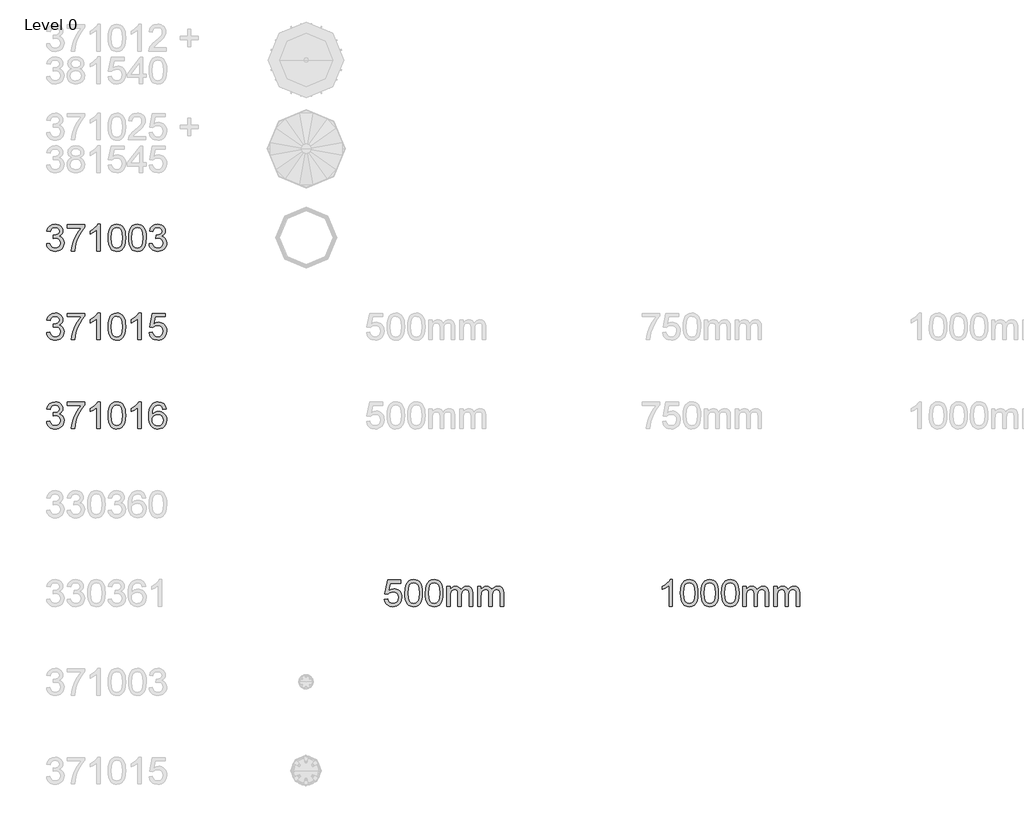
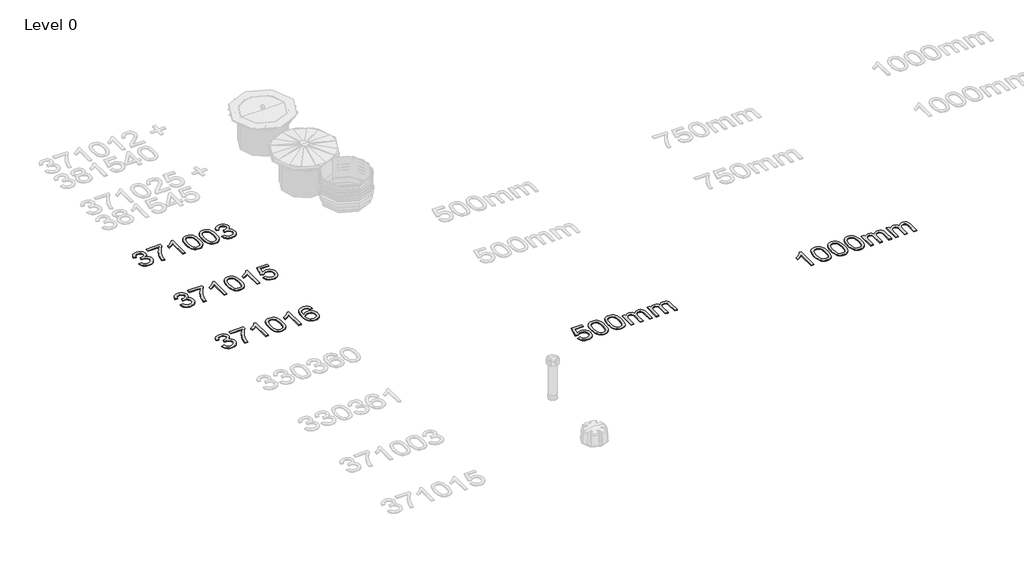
# One storey, part 13 of 25: 5 proxies.
"""IFC4 building model written with IfcOpenShell, lengths in millimetres."""

from ifc_helpers import new_model, si_unit, origin, origin_with_axes, place, context, project, spatial, polyline, outline, extrude, element, save

model = new_model("IFC4")

# Units and contexts
model_context = context("Model", 3, world=origin())
ifc_project = project(units=[si_unit("LENGTHUNIT", "METRE", prefix="MILLI")], contexts=[model_context])

# Site, building, storey
site = spatial("IfcSite", under=ifc_project)
building = spatial("IfcBuilding", under=site)
storey = spatial("IfcBuildingStorey", under=building, Name="Level 0", Elevation=0.0)

# Proxies
placement = place(None, origin())
element("IfcBuildingElementProxy", 1, Name="300mm Arial", ObjectType="300mm Arial", at=placement, inside=storey, context=model_context, shape_type="SweptSolid", body=[
    extrude(outline(polyline([(-3192.0538732, -1120.925676), (-3154.3827568, -1116.2167865), (-3145.9490621, -1139.8899929), (-3133.5974241, -1155.8744656), (-3116.7208376, -1164.979545), (-3094.7122972, -1168.0145714), (-3068.8869812, -1163.8391108), (-3048.947777, -1151.3127288), (-3036.2006659, -1132.6243235), (-3031.9516289, -1109.9627926), (-3036.1638777, -1088.4508929), (-3048.8006242, -1071.0040893), (-3067.930488, -1059.4433976), (-3091.6220885, -1055.5898337), (-3118.0360157, -1059.710112), (-3113.842161, -1022.0389957), (-3107.8088963, -1022.4804541), (-3085.2393359, -1019.7765215), (-3065.0610084, -1011.6647235), (-3050.8239752, -997.942725), (-3046.0782975, -978.4081911), (-3049.5179941, -962.1386099), (-3059.8370841, -948.9408433), (-3075.5824335, -940.1944488), (-3095.3009084, -937.278984), (-3115.0561716, -940.22204), (-3131.2061912, -949.0512079), (-3142.9968091, -963.7664877), (-3149.6738673, -984.3678794), (-3187.3449836, -979.6589899), (-3176.2533415, -945.8322404), (-3156.5164724, -920.5771415), (-3129.513934, -904.8501862), (-3096.6252836, -899.6078677), (-3072.9428802, -902.1922387), (-3051.1918572, -909.9453518), (-3032.8529397, -922.1774281), (-3019.4068528, -938.198689), (-3011.1570991, -956.6571681), (-3008.4071812, -976.2008991), (-3011.0191433, -994.4110579), (-3018.8550298, -1010.9289595), (-3031.8044761, -1025.0004458), (-3049.7571174, -1035.8713587), (-3026.1758815, -1045.3995024), (-3008.7014868, -1061.6230984), (-2997.8857561, -1083.6592299), (-2994.2805125, -1110.6249802), (-2996.0831343, -1129.7364498), (-3001.4909997, -1147.3396033), (-3010.5041085, -1163.4344406), (-3023.122461, -1178.0209617), (-3038.4953298, -1190.1242793), (-3055.771988, -1198.7695062), (-3074.9524356, -1203.9566423), (-3096.0366724, -1205.6856877), (-3115.0929598, -1204.2095612), (-3132.4569899, -1199.7811817), (-3148.1287629, -1192.4005492), (-3162.1082787, -1182.0676636), (-3173.8299188, -1169.3895304), (-3182.7280646, -1154.9731547), (-3188.802716, -1138.8185366), (-3192.0538732, -1120.925676)])), origin_with_axes(), (0.0, 0.0, 1.0), 10.0),
    extrude(outline(polyline([(-2961.3182858, -941.9878736), (-2961.3182858, -904.3167573), (-2763.5449252, -904.3167573), (-2763.5449252, -934.7773865), (-2791.7338831, -970.452743), (-2819.6469294, -1015.82179), (-2844.267432, -1066.7458552), (-2862.5787583, -1119.0862661), (-2871.555079, -1158.2473044), (-2876.5582741, -1200.9767982), (-2914.2293904, -1200.9767982), (-2910.1550973, -1162.1468536), (-2899.2565932, -1115.9960573), (-2881.8281837, -1067.076949), (-2858.1641743, -1019.9420684), (-2830.5362365, -977.3321363), (-2801.2160415, -941.9878736), (-2961.3182858, -941.9878736)])), origin_with_axes(), (0.0, 0.0, 1.0), 10.0),
    extrude(outline(polyline([(-2589.3160123, -1200.9767982), (-2626.9871286, -1200.9767982), (-2626.9871286, -966.1209325), (-2662.6716821, -991.5415783), (-2702.3293612, -1010.5610775), (-2702.3293612, -974.9501003), (-2672.7424517, -958.8552631), (-2647.1102737, -939.7070052), (-2626.9043551, -919.3447368), (-2613.5962239, -899.6078677), (-2589.3160123, -899.6078677), (-2589.3160123, -1200.9767982)])), origin_with_axes(), (0.0, 0.0, 1.0), 10.0),
    extrude(outline(polyline([(-2499.847111, -1052.7203541), (-2497.078799, -1004.4818275), (-2488.773863, -966.0105679), (-2475.0150764, -936.717964), (-2455.8852126, -916.0154047), (-2431.246316, -903.709752), (-2400.9604307, -899.6078677), (-2377.7470768, -902.0358889), (-2356.9617441, -909.3199524), (-2339.5793198, -921.1749497), (-2326.5746913, -937.3157722), (-2316.752242, -957.6044643), (-2308.9163555, -981.9030701), (-2303.7844017, -1012.7591724), (-2302.0737504, -1052.7203541), (-2304.8144713, -1100.6829692), (-2313.0366339, -1139.0622584), (-2326.7126471, -1168.3824534), (-2345.8149197, -1189.1677861), (-2370.5089986, -1201.5562123), (-2400.9604307, -1205.6856877), (-2421.7089753, -1203.892263), (-2440.103075, -1198.5119888), (-2456.14273, -1189.5448652), (-2469.8279402, -1176.9908921), (-2482.9613275, -1154.2971715), (-2492.3423183, -1126.0208417), (-2497.9709129, -1092.1619025), (-2499.847111, -1052.7203541)]), holes=[polyline([(-2462.1759947, -1052.6467777), (-2457.7614108, -1111.9033701), (-2452.2431809, -1132.1713688), (-2444.517659, -1146.1991691), (-2424.799184, -1162.5607208), (-2400.9604307, -1168.0145714), (-2377.1216774, -1162.5423267), (-2357.4032025, -1146.1255927), (-2349.6776806, -1132.0747997), (-2344.1594507, -1111.8113996), (-2339.7448667, -1052.6467777), (-2344.0122979, -994.7237576), (-2349.3465868, -974.5224375), (-2356.8145913, -960.1612441), (-2376.496278, -942.9995491), (-2401.4018891, -937.278984), (-2424.983125, -942.3189674), (-2443.9290478, -957.4389174), (-2451.9120871, -973.0739022), (-2457.614258, -994.1535405), (-2462.1759947, -1052.6467777)])]), origin_with_axes(), (0.0, 0.0, 1.0), 10.0),
    extrude(outline(polyline([(-2269.1115237, -1052.7203541), (-2266.3432116, -1004.4818275), (-2258.0382756, -966.0105679), (-2244.279489, -936.717964), (-2225.1496252, -916.0154047), (-2200.5107286, -903.709752), (-2170.2248434, -899.6078677), (-2147.0114895, -902.0358889), (-2126.2261567, -909.3199524), (-2108.8437325, -921.1749497), (-2095.8391039, -937.3157722), (-2086.0166547, -957.6044643), (-2078.1807682, -981.9030701), (-2073.0488143, -1012.7591724), (-2071.338163, -1052.7203541), (-2074.0788839, -1100.6829692), (-2082.3010465, -1139.0622584), (-2095.9770597, -1168.3824534), (-2115.0793323, -1189.1677861), (-2139.7734112, -1201.5562123), (-2170.2248434, -1205.6856877), (-2190.9733879, -1203.892263), (-2209.3674876, -1198.5119888), (-2225.4071426, -1189.5448652), (-2239.0923528, -1176.9908921), (-2252.2257401, -1154.2971715), (-2261.606731, -1126.0208417), (-2267.2353255, -1092.1619025), (-2269.1115237, -1052.7203541)]), holes=[polyline([(-2231.4404073, -1052.6467777), (-2227.0258234, -1111.9033701), (-2221.5075935, -1132.1713688), (-2213.7820716, -1146.1991691), (-2194.0635966, -1162.5607208), (-2170.2248434, -1168.0145714), (-2146.3860901, -1162.5423267), (-2126.6676151, -1146.1255927), (-2118.9420932, -1132.0747997), (-2113.4238633, -1111.8113996), (-2109.0092794, -1052.6467777), (-2113.2767105, -994.7237576), (-2118.6109994, -974.5224375), (-2126.0790039, -960.1612441), (-2145.7606907, -942.9995491), (-2170.6663017, -937.278984), (-2194.2475376, -942.3189674), (-2213.1934604, -957.4389174), (-2221.1764997, -973.0739022), (-2226.8786706, -994.1535405), (-2231.4404073, -1052.6467777)])]), origin_with_axes(), (0.0, 0.0, 1.0), 10.0),
    extrude(outline(polyline([(-2038.3759363, -1120.925676), (-2000.70482, -1116.2167865), (-1992.2711252, -1139.8899929), (-1979.9194872, -1155.8744656), (-1963.0429007, -1164.979545), (-1941.0343604, -1168.0145714), (-1915.2090443, -1163.8391108), (-1895.2698402, -1151.3127288), (-1882.522729, -1132.6243235), (-1878.273692, -1109.9627926), (-1882.4859408, -1088.4508929), (-1895.1226874, -1071.0040893), (-1914.2525511, -1059.4433976), (-1937.9441516, -1055.5898337), (-1964.3580789, -1059.710112), (-1960.1642241, -1022.0389957), (-1954.1309594, -1022.4804541), (-1931.561399, -1019.7765215), (-1911.3830715, -1011.6647235), (-1897.1460383, -997.942725), (-1892.4003606, -978.4081911), (-1895.8400572, -962.1386099), (-1906.1591472, -948.9408433), (-1921.9044966, -940.1944488), (-1941.6229715, -937.278984), (-1961.3782347, -940.22204), (-1977.5282543, -949.0512079), (-1989.3188722, -963.7664877), (-1995.9959304, -984.3678794), (-2033.6670467, -979.6589899), (-2022.5754046, -945.8322404), (-2002.8385355, -920.5771415), (-1975.8359971, -904.8501862), (-1942.9473467, -899.6078677), (-1919.2649433, -902.1922387), (-1897.5139203, -909.9453518), (-1879.1750029, -922.1774281), (-1865.7289159, -938.198689), (-1857.4791622, -956.6571681), (-1854.7292443, -976.2008991), (-1857.3412065, -994.4110579), (-1865.177093, -1010.9289595), (-1878.1265392, -1025.0004458), (-1896.0791805, -1035.8713587), (-1872.4979447, -1045.3995024), (-1855.0235499, -1061.6230984), (-1844.2078192, -1083.6592299), (-1840.6025757, -1110.6249802), (-1842.4051975, -1129.7364498), (-1847.8130628, -1147.3396033), (-1856.8261717, -1163.4344406), (-1869.4445241, -1178.0209617), (-1884.817393, -1190.1242793), (-1902.0940512, -1198.7695062), (-1921.2744987, -1203.9566423), (-1942.3587355, -1205.6856877), (-1961.4150229, -1204.2095612), (-1978.7790531, -1199.7811817), (-1994.4508261, -1192.4005492), (-2008.4303419, -1182.0676636), (-2020.1519819, -1169.3895304), (-2029.0501277, -1154.9731547), (-2035.1247791, -1138.8185366), (-2038.3759363, -1120.925676)])), origin_with_axes(), (0.0, 0.0, 1.0), 10.0),
])
element("IfcBuildingElementProxy", 2, Name="300mm Arial", ObjectType="300mm Arial", at=placement, inside=storey, context=model_context, shape_type="SweptSolid", body=[
    extrude(outline(polyline([(-3192.0538732, -2120.925676), (-3154.3827568, -2116.2167865), (-3145.9490621, -2139.8899929), (-3133.5974241, -2155.8744656), (-3116.7208376, -2164.979545), (-3094.7122972, -2168.0145714), (-3068.8869812, -2163.8391108), (-3048.947777, -2151.3127288), (-3036.2006659, -2132.6243235), (-3031.9516289, -2109.9627926), (-3036.1638777, -2088.4508929), (-3048.8006242, -2071.0040893), (-3067.930488, -2059.4433976), (-3091.6220885, -2055.5898337), (-3118.0360157, -2059.710112), (-3113.842161, -2022.0389957), (-3107.8088963, -2022.4804541), (-3085.2393359, -2019.7765215), (-3065.0610084, -2011.6647235), (-3050.8239752, -1997.942725), (-3046.0782975, -1978.4081911), (-3049.5179941, -1962.1386099), (-3059.8370841, -1948.9408433), (-3075.5824335, -1940.1944488), (-3095.3009084, -1937.278984), (-3115.0561716, -1940.22204), (-3131.2061912, -1949.0512079), (-3142.9968091, -1963.7664877), (-3149.6738673, -1984.3678794), (-3187.3449836, -1979.6589899), (-3176.2533415, -1945.8322404), (-3156.5164724, -1920.5771415), (-3129.513934, -1904.8501862), (-3096.6252836, -1899.6078677), (-3072.9428802, -1902.1922387), (-3051.1918572, -1909.9453518), (-3032.8529397, -1922.1774281), (-3019.4068528, -1938.198689), (-3011.1570991, -1956.6571681), (-3008.4071812, -1976.2008991), (-3011.0191433, -1994.4110579), (-3018.8550298, -2010.9289595), (-3031.8044761, -2025.0004458), (-3049.7571174, -2035.8713587), (-3026.1758815, -2045.3995024), (-3008.7014868, -2061.6230984), (-2997.8857561, -2083.6592299), (-2994.2805125, -2110.6249802), (-2996.0831343, -2129.7364498), (-3001.4909997, -2147.3396033), (-3010.5041085, -2163.4344406), (-3023.122461, -2178.0209617), (-3038.4953298, -2190.1242793), (-3055.771988, -2198.7695062), (-3074.9524356, -2203.9566423), (-3096.0366724, -2205.6856877), (-3115.0929598, -2204.2095612), (-3132.4569899, -2199.7811817), (-3148.1287629, -2192.4005492), (-3162.1082787, -2182.0676636), (-3173.8299188, -2169.3895304), (-3182.7280646, -2154.9731547), (-3188.802716, -2138.8185366), (-3192.0538732, -2120.925676)])), origin_with_axes(), (0.0, 0.0, 1.0), 10.0),
    extrude(outline(polyline([(-2961.3182858, -1941.9878736), (-2961.3182858, -1904.3167573), (-2763.5449252, -1904.3167573), (-2763.5449252, -1934.7773865), (-2791.7338831, -1970.452743), (-2819.6469294, -2015.82179), (-2844.267432, -2066.7458552), (-2862.5787583, -2119.0862661), (-2871.555079, -2158.2473044), (-2876.5582741, -2200.9767982), (-2914.2293904, -2200.9767982), (-2910.1550973, -2162.1468536), (-2899.2565932, -2115.9960573), (-2881.8281837, -2067.076949), (-2858.1641743, -2019.9420684), (-2830.5362365, -1977.3321363), (-2801.2160415, -1941.9878736), (-2961.3182858, -1941.9878736)])), origin_with_axes(), (0.0, 0.0, 1.0), 10.0),
    extrude(outline(polyline([(-2589.3160123, -2200.9767982), (-2626.9871286, -2200.9767982), (-2626.9871286, -1966.1209325), (-2662.6716821, -1991.5415783), (-2702.3293612, -2010.5610775), (-2702.3293612, -1974.9501003), (-2672.7424517, -1958.8552631), (-2647.1102737, -1939.7070052), (-2626.9043551, -1919.3447368), (-2613.5962239, -1899.6078677), (-2589.3160123, -1899.6078677), (-2589.3160123, -2200.9767982)])), origin_with_axes(), (0.0, 0.0, 1.0), 10.0),
    extrude(outline(polyline([(-2499.847111, -2052.7203541), (-2497.078799, -2004.4818275), (-2488.773863, -1966.0105679), (-2475.0150764, -1936.717964), (-2455.8852126, -1916.0154047), (-2431.246316, -1903.709752), (-2400.9604307, -1899.6078677), (-2377.7470768, -1902.0358889), (-2356.9617441, -1909.3199524), (-2339.5793198, -1921.1749497), (-2326.5746913, -1937.3157722), (-2316.752242, -1957.6044643), (-2308.9163555, -1981.9030701), (-2303.7844017, -2012.7591724), (-2302.0737504, -2052.7203541), (-2304.8144713, -2100.6829692), (-2313.0366339, -2139.0622584), (-2326.7126471, -2168.3824534), (-2345.8149197, -2189.1677861), (-2370.5089986, -2201.5562123), (-2400.9604307, -2205.6856877), (-2421.7089753, -2203.892263), (-2440.103075, -2198.5119888), (-2456.14273, -2189.5448652), (-2469.8279402, -2176.9908921), (-2482.9613275, -2154.2971715), (-2492.3423183, -2126.0208417), (-2497.9709129, -2092.1619025), (-2499.847111, -2052.7203541)]), holes=[polyline([(-2462.1759947, -2052.6467777), (-2457.7614108, -2111.9033701), (-2452.2431809, -2132.1713688), (-2444.517659, -2146.1991691), (-2424.799184, -2162.5607208), (-2400.9604307, -2168.0145714), (-2377.1216774, -2162.5423267), (-2357.4032025, -2146.1255927), (-2349.6776806, -2132.0747997), (-2344.1594507, -2111.8113996), (-2339.7448667, -2052.6467777), (-2344.0122979, -1994.7237576), (-2349.3465868, -1974.5224375), (-2356.8145913, -1960.1612441), (-2376.496278, -1942.9995491), (-2401.4018891, -1937.278984), (-2424.983125, -1942.3189674), (-2443.9290478, -1957.4389174), (-2451.9120871, -1973.0739022), (-2457.614258, -1994.1535405), (-2462.1759947, -2052.6467777)])]), origin_with_axes(), (0.0, 0.0, 1.0), 10.0),
    extrude(outline(polyline([(-2127.8448375, -2200.9767982), (-2165.5159538, -2200.9767982), (-2165.5159538, -1966.1209325), (-2201.2005073, -1991.5415783), (-2240.8581864, -2010.5610775), (-2240.8581864, -1974.9501003), (-2211.271277, -1958.8552631), (-2185.639099, -1939.7070052), (-2165.4331804, -1919.3447368), (-2152.1250492, -1899.6078677), (-2127.8448375, -1899.6078677), (-2127.8448375, -2200.9767982)])), origin_with_axes(), (0.0, 0.0, 1.0), 10.0),
    extrude(outline(polyline([(-2038.3759363, -2120.925676), (-2000.70482, -2116.2167865), (-1993.7886385, -2138.8323321), (-1981.722109, -2155.028337), (-1964.5604139, -2164.7680128), (-1942.3587355, -2168.0145714), (-1915.3561971, -2163.4988199), (-1895.1226874, -2149.9515654), (-1882.4859408, -2128.9363065), (-1878.273692, -2102.0165415), (-1882.2192264, -2076.669472), (-1894.0558296, -2057.2820909), (-1913.8754721, -2044.9764381), (-1941.7701243, -2040.8745539), (-1960.0446625, -2042.5116288), (-1974.8427157, -2047.4228534), (-1995.9959304, -2064.4190016), (-2033.6670467, -2059.710112), (-2000.70482, -1904.3167573), (-1854.7292443, -1904.3167573), (-1854.7292443, -1941.9878736), (-1970.2441908, -1941.9878736), (-1986.3574222, -2024.9820517), (-1959.4468542, -2008.6480911), (-1931.2486993, -2003.2034376), (-1912.902884, -2004.8910962), (-1896.0515894, -2009.9540722), (-1880.6948154, -2018.3923654), (-1866.8325619, -2030.205976), (-1855.3569429, -2044.6729355), (-1847.1600722, -2061.0712754), (-1842.2419498, -2079.4009958), (-1840.6025757, -2099.6620967), (-1846.5070817, -2137.333213), (-1853.8877142, -2154.1270261), (-1864.2205998, -2169.5596758), (-1879.8739787, -2185.364806), (-1898.1393197, -2196.6541847), (-1919.0166229, -2203.427812), (-1942.5058883, -2205.6856877), (-1979.50562, -2199.8823492), (-1995.1842908, -2192.6281762), (-2008.9821649, -2182.4723338), (-2020.4623824, -2169.92066), (-2029.1880835, -2155.4789924), (-2038.3759363, -2120.925676)])), origin_with_axes(), (0.0, 0.0, 1.0), 10.0),
])
element("IfcBuildingElementProxy", 3, Name="300mm Arial", ObjectType="300mm Arial", at=placement, inside=storey, context=model_context, shape_type="SweptSolid", body=[
    extrude(outline(polyline([(-3192.0538732, -3120.925676), (-3154.3827568, -3116.2167865), (-3145.9490621, -3139.8899929), (-3133.5974241, -3155.8744656), (-3116.7208376, -3164.979545), (-3094.7122972, -3168.0145714), (-3068.8869812, -3163.8391108), (-3048.947777, -3151.3127288), (-3036.2006659, -3132.6243235), (-3031.9516289, -3109.9627926), (-3036.1638777, -3088.4508929), (-3048.8006242, -3071.0040893), (-3067.930488, -3059.4433976), (-3091.6220885, -3055.5898337), (-3118.0360157, -3059.710112), (-3113.842161, -3022.0389957), (-3107.8088963, -3022.4804541), (-3085.2393359, -3019.7765215), (-3065.0610084, -3011.6647235), (-3050.8239752, -2997.942725), (-3046.0782975, -2978.4081911), (-3049.5179941, -2962.1386099), (-3059.8370841, -2948.9408433), (-3075.5824335, -2940.1944488), (-3095.3009084, -2937.278984), (-3115.0561716, -2940.22204), (-3131.2061912, -2949.0512079), (-3142.9968091, -2963.7664877), (-3149.6738673, -2984.3678794), (-3187.3449836, -2979.6589899), (-3176.2533415, -2945.8322404), (-3156.5164724, -2920.5771415), (-3129.513934, -2904.8501862), (-3096.6252836, -2899.6078677), (-3072.9428802, -2902.1922387), (-3051.1918572, -2909.9453518), (-3032.8529397, -2922.1774281), (-3019.4068528, -2938.198689), (-3011.1570991, -2956.6571681), (-3008.4071812, -2976.2008991), (-3011.0191433, -2994.4110579), (-3018.8550298, -3010.9289595), (-3031.8044761, -3025.0004458), (-3049.7571174, -3035.8713587), (-3026.1758815, -3045.3995024), (-3008.7014868, -3061.6230984), (-2997.8857561, -3083.6592299), (-2994.2805125, -3110.6249802), (-2996.0831343, -3129.7364498), (-3001.4909997, -3147.3396033), (-3010.5041085, -3163.4344406), (-3023.122461, -3178.0209617), (-3038.4953298, -3190.1242793), (-3055.771988, -3198.7695062), (-3074.9524356, -3203.9566423), (-3096.0366724, -3205.6856877), (-3115.0929598, -3204.2095612), (-3132.4569899, -3199.7811817), (-3148.1287629, -3192.4005492), (-3162.1082787, -3182.0676636), (-3173.8299188, -3169.3895304), (-3182.7280646, -3154.9731547), (-3188.802716, -3138.8185366), (-3192.0538732, -3120.925676)])), origin_with_axes(), (0.0, 0.0, 1.0), 10.0),
    extrude(outline(polyline([(-2961.3182858, -2941.9878736), (-2961.3182858, -2904.3167573), (-2763.5449252, -2904.3167573), (-2763.5449252, -2934.7773865), (-2791.7338831, -2970.452743), (-2819.6469294, -3015.82179), (-2844.267432, -3066.7458552), (-2862.5787583, -3119.0862661), (-2871.555079, -3158.2473044), (-2876.5582741, -3200.9767982), (-2914.2293904, -3200.9767982), (-2910.1550973, -3162.1468536), (-2899.2565932, -3115.9960573), (-2881.8281837, -3067.076949), (-2858.1641743, -3019.9420684), (-2830.5362365, -2977.3321363), (-2801.2160415, -2941.9878736), (-2961.3182858, -2941.9878736)])), origin_with_axes(), (0.0, 0.0, 1.0), 10.0),
    extrude(outline(polyline([(-2589.3160123, -3200.9767982), (-2626.9871286, -3200.9767982), (-2626.9871286, -2966.1209325), (-2662.6716821, -2991.5415783), (-2702.3293612, -3010.5610775), (-2702.3293612, -2974.9501003), (-2672.7424517, -2958.8552631), (-2647.1102737, -2939.7070052), (-2626.9043551, -2919.3447368), (-2613.5962239, -2899.6078677), (-2589.3160123, -2899.6078677), (-2589.3160123, -3200.9767982)])), origin_with_axes(), (0.0, 0.0, 1.0), 10.0),
    extrude(outline(polyline([(-2499.847111, -3052.7203541), (-2497.078799, -3004.4818275), (-2488.773863, -2966.0105679), (-2475.0150764, -2936.717964), (-2455.8852126, -2916.0154047), (-2431.246316, -2903.709752), (-2400.9604307, -2899.6078677), (-2377.7470768, -2902.0358889), (-2356.9617441, -2909.3199524), (-2339.5793198, -2921.1749497), (-2326.5746913, -2937.3157722), (-2316.752242, -2957.6044643), (-2308.9163555, -2981.9030701), (-2303.7844017, -3012.7591724), (-2302.0737504, -3052.7203541), (-2304.8144713, -3100.6829692), (-2313.0366339, -3139.0622584), (-2326.7126471, -3168.3824534), (-2345.8149197, -3189.1677861), (-2370.5089986, -3201.5562123), (-2400.9604307, -3205.6856877), (-2421.7089753, -3203.892263), (-2440.103075, -3198.5119888), (-2456.14273, -3189.5448652), (-2469.8279402, -3176.9908921), (-2482.9613275, -3154.2971715), (-2492.3423183, -3126.0208417), (-2497.9709129, -3092.1619025), (-2499.847111, -3052.7203541)]), holes=[polyline([(-2462.1759947, -3052.6467777), (-2457.7614108, -3111.9033701), (-2452.2431809, -3132.1713688), (-2444.517659, -3146.1991691), (-2424.799184, -3162.5607208), (-2400.9604307, -3168.0145714), (-2377.1216774, -3162.5423267), (-2357.4032025, -3146.1255927), (-2349.6776806, -3132.0747997), (-2344.1594507, -3111.8113996), (-2339.7448667, -3052.6467777), (-2344.0122979, -2994.7237576), (-2349.3465868, -2974.5224375), (-2356.8145913, -2960.1612441), (-2376.496278, -2942.9995491), (-2401.4018891, -2937.278984), (-2424.983125, -2942.3189674), (-2443.9290478, -2957.4389174), (-2451.9120871, -2973.0739022), (-2457.614258, -2994.1535405), (-2462.1759947, -3052.6467777)])]), origin_with_axes(), (0.0, 0.0, 1.0), 10.0),
    extrude(outline(polyline([(-2127.8448375, -3200.9767982), (-2165.5159538, -3200.9767982), (-2165.5159538, -2966.1209325), (-2201.2005073, -2991.5415783), (-2240.8581864, -3010.5610775), (-2240.8581864, -2974.9501003), (-2211.271277, -2958.8552631), (-2185.639099, -2939.7070052), (-2165.4331804, -2919.3447368), (-2152.1250492, -2899.6078677), (-2127.8448375, -2899.6078677), (-2127.8448375, -3200.9767982)])), origin_with_axes(), (0.0, 0.0, 1.0), 10.0),
    extrude(outline(polyline([(-1845.3114652, -2979.6589899), (-1882.9825815, -2984.3678794), (-1889.0526344, -2965.6978682), (-1897.2564029, -2952.950757), (-1914.3445216, -2941.1969273), (-1935.0010956, -2937.278984), (-1952.5122786, -2939.5598524), (-1968.993392, -2946.4024575), (-1983.1476518, -2960.8142347), (-1994.7083435, -2980.6522713), (-2002.5166388, -3008.7124704), (-2005.4137095, -3047.7907354), (-1990.3029566, -3030.1599908), (-1972.1939653, -3017.7347764), (-1952.0984114, -3010.3679394), (-1931.0279701, -3007.9123271), (-1912.9281759, -3009.5907887), (-1896.2263333, -3014.6261735), (-1880.9224423, -3023.0184815), (-1867.0165029, -3034.7677128), (-1855.4604098, -3049.1748914), (-1847.2060575, -3065.5410417), (-1842.2534461, -3083.8661635), (-1840.6025757, -3104.150257), (-1843.7111785, -3131.1252043), (-1853.0369871, -3156.131983), (-1867.8074492, -3177.34038), (-1887.2500127, -3192.9201825), (-1910.4817607, -3202.4943114), (-1936.6197764, -3205.6856877), (-1959.076673, -3203.5703662), (-1979.3584672, -3197.2244018), (-1997.4651592, -3186.6477945), (-2013.3967488, -3171.8405442), (-2026.3852825, -3152.1772515), (-2035.6628066, -3127.0325171), (-2041.229321, -3096.406341), (-2043.0848258, -3060.2987232), (-2041.0246866, -3019.8179082), (-2034.8442691, -2985.2691903), (-2024.5435733, -2956.6525696), (-2010.1225991, -2933.9680461), (-1994.4922128, -2918.9354681), (-1976.369426, -2908.1979123), (-1955.7542387, -2901.7553789), (-1932.6466509, -2899.6078677), (-1899.5924536, -2904.9237626), (-1873.123344, -2920.8714471), (-1854.5820915, -2946.2001224), (-1845.3114652, -2979.6589899)]), holes=[polyline([(-2005.4137095, -3103.5616459), (-2003.2340087, -3120.2542914), (-1996.6949062, -3136.1927788), (-1986.5413632, -3149.8963831), (-1973.5183405, -3159.8843793), (-1957.8005823, -3165.9820234), (-1939.5628324, -3168.0145714), (-1914.7032066, -3163.8023226), (-1895.1594756, -3151.165576), (-1882.4951379, -3131.2999483), (-1878.273692, -3105.4010558), (-1882.4399556, -3080.54143), (-1894.9387464, -3061.5863102), (-1914.8135712, -3049.5841601), (-1941.1079368, -3045.5834434), (-1965.9307744, -3049.5841601), (-1986.688516, -3061.5863102), (-2000.7324111, -3080.0815775), (-2005.4137095, -3103.5616459)])]), origin_with_axes(), (0.0, 0.0, 1.0), 10.0),
])
element("IfcBuildingElementProxy", 4, Name="300mm Arial", ObjectType="300mm Arial", at=placement, inside=storey, context=model_context, shape_type="SweptSolid", body=[
    extrude(outline(polyline([(607.9461268, -5120.925676), (645.6172432, -5116.2167865), (652.5334247, -5138.8323321), (664.5999541, -5155.028337), (681.7616492, -5164.7680128), (703.9633276, -5168.0145714), (730.965866, -5163.4988199), (751.1993758, -5149.9515654), (763.8361223, -5128.9363065), (768.0483711, -5102.0165415), (764.1028367, -5076.669472), (752.2662336, -5057.2820909), (732.4465911, -5044.9764381), (704.5519388, -5040.8745539), (686.2774007, -5042.5116288), (671.4793474, -5047.4228534), (650.3261327, -5064.4190016), (612.6550164, -5059.710112), (645.6172432, -4904.3167573), (791.5928188, -4904.3167573), (791.5928188, -4941.9878736), (676.0778724, -4941.9878736), (659.964641, -5024.9820517), (686.8752089, -5008.6480911), (715.0733638, -5003.2034376), (733.4191791, -5004.8910962), (750.2704737, -5009.9540722), (765.6272478, -5018.3923654), (779.4895012, -5030.205976), (790.9651202, -5044.6729355), (799.1619909, -5061.0712754), (804.0801133, -5079.4009958), (805.7194875, -5099.6620967), (799.8149814, -5137.333213), (792.4343489, -5154.1270261), (782.1014634, -5169.5596758), (766.4480845, -5185.364806), (748.1827434, -5196.6541847), (727.3054402, -5203.427812), (703.8161748, -5205.6856877), (666.8164431, -5199.8823492), (651.1377723, -5192.6281762), (637.3398983, -5182.4723338), (625.8596807, -5169.92066), (617.1339797, -5155.4789924), (607.9461268, -5120.925676)])), origin_with_axes(), (0.0, 0.0, 1.0), 10.0),
    extrude(outline(polyline([(838.6817142, -5052.7203541), (841.4500262, -5004.4818275), (849.7549623, -4966.0105679), (863.5137489, -4936.717964), (882.6436126, -4916.0154047), (907.2825093, -4903.709752), (937.5683945, -4899.6078677), (960.7817484, -4902.0358889), (981.5670811, -4909.3199524), (998.9495054, -4921.1749497), (1011.9541339, -4937.3157722), (1021.7765832, -4957.6044643), (1029.6124697, -4981.9030701), (1034.7444235, -5012.7591724), (1036.4550748, -5052.7203541), (1033.714354, -5100.6829692), (1025.4921914, -5139.0622584), (1011.8161782, -5168.3824534), (992.7139056, -5189.1677861), (968.0198267, -5201.5562123), (937.5683945, -5205.6856877), (916.81985, -5203.892263), (898.4257502, -5198.5119888), (882.3860952, -5189.5448652), (868.700885, -5176.9908921), (855.5674978, -5154.2971715), (846.1865069, -5126.0208417), (840.5579124, -5092.1619025), (838.6817142, -5052.7203541)]), holes=[polyline([(876.3528305, -5052.6467777), (880.7674145, -5111.9033701), (886.2856444, -5132.1713688), (894.0111663, -5146.1991691), (913.7296412, -5162.5607208), (937.5683945, -5168.0145714), (961.4071478, -5162.5423267), (981.1256228, -5146.1255927), (988.8511447, -5132.0747997), (994.3693746, -5111.8113996), (998.7839585, -5052.6467777), (994.5165274, -4994.7237576), (989.1822384, -4974.5224375), (981.7142339, -4960.1612441), (962.0325472, -4942.9995491), (937.1269361, -4937.278984), (913.5457002, -4942.3189674), (894.5997775, -4957.4389174), (886.6167382, -4973.0739022), (880.9145673, -4994.1535405), (876.3528305, -5052.6467777)])]), origin_with_axes(), (0.0, 0.0, 1.0), 10.0),
    extrude(outline(polyline([(1069.4173016, -5052.7203541), (1072.1856136, -5004.4818275), (1080.4905496, -4966.0105679), (1094.2493363, -4936.717964), (1113.3792, -4916.0154047), (1138.0180966, -4903.709752), (1168.3039819, -4899.6078677), (1191.5173358, -4902.0358889), (1212.3026685, -4909.3199524), (1229.6850928, -4921.1749497), (1242.6897213, -4937.3157722), (1252.5121706, -4957.6044643), (1260.3480571, -4981.9030701), (1265.4800109, -5012.7591724), (1267.1906622, -5052.7203541), (1264.4499413, -5100.6829692), (1256.2277787, -5139.0622584), (1242.5517656, -5168.3824534), (1223.449493, -5189.1677861), (1198.755414, -5201.5562123), (1168.3039819, -5205.6856877), (1147.5554374, -5203.892263), (1129.1613376, -5198.5119888), (1113.1216826, -5189.5448652), (1099.4364724, -5176.9908921), (1086.3030852, -5154.2971715), (1076.9220943, -5126.0208417), (1071.2934998, -5092.1619025), (1069.4173016, -5052.7203541)]), holes=[polyline([(1107.0884179, -5052.6467777), (1111.5030018, -5111.9033701), (1117.0212318, -5132.1713688), (1124.7467537, -5146.1991691), (1144.4652286, -5162.5607208), (1168.3039819, -5168.0145714), (1192.1427352, -5162.5423267), (1211.8612101, -5146.1255927), (1219.586732, -5132.0747997), (1225.104962, -5111.8113996), (1229.5195459, -5052.6467777), (1225.2521148, -4994.7237576), (1219.9178258, -4974.5224375), (1212.4498213, -4960.1612441), (1192.7681346, -4942.9995491), (1167.8625235, -4937.278984), (1144.2812876, -4942.3189674), (1125.3353649, -4957.4389174), (1117.3523256, -4973.0739022), (1111.6501546, -4994.1535405), (1107.0884179, -5052.6467777)])]), origin_with_axes(), (0.0, 0.0, 1.0), 10.0),
    extrude(outline(polyline([(1309.570668, -5200.9767982), (1309.570668, -4979.6589899), (1347.2417844, -4979.6589899), (1347.2417844, -5016.0793074), (1358.5725498, -4999.3498737), (1373.1406768, -4986.2440776), (1390.4495247, -4977.7735947), (1410.0024527, -4974.9501003), (1430.9533324, -4977.828777), (1447.7471454, -4986.4648068), (1460.2919215, -5000.2879728), (1468.49569, -5018.7280578), (1482.2268854, -4999.5752014), (1497.8894614, -4985.8945897), (1515.4834178, -4977.6862227), (1535.0087547, -4974.9501003), (1563.3264713, -4979.50264), (1584.2681538, -4993.1602591), (1597.208403, -5016.2908395), (1601.5218194, -5049.2622634), (1601.5218194, -5200.9767982), (1563.8507031, -5200.9767982), (1563.8507031, -5065.4490712), (1560.3558242, -5033.9951606), (1555.4445995, -5025.3223425), (1547.7006835, -5018.5073286), (1537.7402785, -5014.0927446), (1526.1795868, -5012.6212166), (1505.7713331, -5016.3920071), (1489.1338699, -5027.7043784), (1478.0698189, -5047.3308829), (1474.3818019, -5076.0440726), (1474.3818019, -5200.9767982), (1436.7106856, -5200.9767982), (1436.7106856, -5061.2552164), (1434.5309848, -5039.9548489), (1427.9918823, -5024.7613225), (1416.4863729, -5015.6562431), (1399.4074513, -5012.6212166), (1384.8945066, -5014.6445676), (1371.521996, -5020.7146205), (1360.4855362, -5030.6842226), (1352.9807435, -5044.406221), (1348.6765241, -5063.4441143), (1347.2417844, -5089.3614008), (1347.2417844, -5200.9767982), (1309.570668, -5200.9767982)])), origin_with_axes(), (0.0, 0.0, 1.0), 10.0),
    extrude(outline(polyline([(1658.0284939, -5200.9767982), (1658.0284939, -4979.6589899), (1695.6996102, -4979.6589899), (1695.6996102, -5016.0793074), (1707.0303756, -4999.3498737), (1721.5985026, -4986.2440776), (1738.9073505, -4977.7735947), (1758.4602786, -4974.9501003), (1779.4111582, -4977.828777), (1796.2049713, -4986.4648068), (1808.7497473, -5000.2879728), (1816.9535158, -5018.7280578), (1830.6847113, -4999.5752014), (1846.3472872, -4985.8945897), (1863.9412436, -4977.6862227), (1883.4665805, -4974.9501003), (1911.7842971, -4979.50264), (1932.7259797, -4993.1602591), (1945.6662289, -5016.2908395), (1949.9796452, -5049.2622634), (1949.9796452, -5200.9767982), (1912.3085289, -5200.9767982), (1912.3085289, -5065.4490712), (1908.81365, -5033.9951606), (1903.9024254, -5025.3223425), (1896.1585094, -5018.5073286), (1886.1981043, -5014.0927446), (1874.6374126, -5012.6212166), (1854.229159, -5016.3920071), (1837.5916957, -5027.7043784), (1826.5276447, -5047.3308829), (1822.8396277, -5076.0440726), (1822.8396277, -5200.9767982), (1785.1685114, -5200.9767982), (1785.1685114, -5061.2552164), (1782.9888106, -5039.9548489), (1776.4497081, -5024.7613225), (1764.9441987, -5015.6562431), (1747.8652771, -5012.6212166), (1733.3523324, -5014.6445676), (1719.9798219, -5020.7146205), (1708.943362, -5030.6842226), (1701.4385693, -5044.406221), (1697.13435, -5063.4441143), (1695.6996102, -5089.3614008), (1695.6996102, -5200.9767982), (1658.0284939, -5200.9767982)])), origin_with_axes(), (0.0, 0.0, 1.0), 10.0),
])
element("IfcBuildingElementProxy", 5, Name="300mm Arial", ObjectType="300mm Arial", at=placement, inside=storey, context=model_context, shape_type="SweptSolid", body=[
    extrude(outline(polyline([(3849.9277278, -5200.9767982), (3812.2566115, -5200.9767982), (3812.2566115, -4966.1209325), (3776.572058, -4991.5415783), (3736.9143789, -5010.5610775), (3736.9143789, -4974.9501003), (3766.5012884, -4958.8552631), (3792.1334664, -4939.7070052), (3812.339385, -4919.3447368), (3825.6475161, -4899.6078677), (3849.9277278, -4899.6078677), (3849.9277278, -5200.9767982)])), origin_with_axes(), (0.0, 0.0, 1.0), 10.0),
    extrude(outline(polyline([(3939.396629, -5052.7203541), (3942.1649411, -5004.4818275), (3950.4698771, -4966.0105679), (3964.2286637, -4936.717964), (3983.3585275, -4916.0154047), (4007.9974241, -4903.709752), (4038.2833093, -4899.6078677), (4061.4966632, -4902.0358889), (4082.281996, -4909.3199524), (4099.6644202, -4921.1749497), (4112.6690488, -4937.3157722), (4122.491498, -4957.6044643), (4130.3273845, -4981.9030701), (4135.4593384, -5012.7591724), (4137.1699896, -5052.7203541), (4134.4292688, -5100.6829692), (4126.2071062, -5139.0622584), (4112.531093, -5168.3824534), (4093.4288204, -5189.1677861), (4068.7347415, -5201.5562123), (4038.2833093, -5205.6856877), (4017.5347648, -5203.892263), (3999.1406651, -5198.5119888), (3983.1010101, -5189.5448652), (3969.4157998, -5176.9908921), (3956.2824126, -5154.2971715), (3946.9014217, -5126.0208417), (3941.2728272, -5092.1619025), (3939.396629, -5052.7203541)]), holes=[polyline([(3977.0677453, -5052.6467777), (3981.4823293, -5111.9033701), (3987.0005592, -5132.1713688), (3994.7260811, -5146.1991691), (4014.4445561, -5162.5607208), (4038.2833093, -5168.0145714), (4062.1220626, -5162.5423267), (4081.8405376, -5146.1255927), (4089.5660595, -5132.0747997), (4095.0842894, -5111.8113996), (4099.4988733, -5052.6467777), (4095.2314422, -4994.7237576), (4089.8971533, -4974.5224375), (4082.4291488, -4960.1612441), (4062.747462, -4942.9995491), (4037.841851, -4937.278984), (4014.2606151, -4942.3189674), (3995.3146923, -4957.4389174), (3987.331653, -4973.0739022), (3981.6294821, -4994.1535405), (3977.0677453, -5052.6467777)])]), origin_with_axes(), (0.0, 0.0, 1.0), 10.0),
    extrude(outline(polyline([(4170.1322164, -5052.7203541), (4172.9005284, -5004.4818275), (4181.2054645, -4966.0105679), (4194.9642511, -4936.717964), (4214.0941148, -4916.0154047), (4238.7330115, -4903.709752), (4269.0188967, -4899.6078677), (4292.2322506, -4902.0358889), (4313.0175833, -4909.3199524), (4330.4000076, -4921.1749497), (4343.4046361, -4937.3157722), (4353.2270854, -4957.6044643), (4361.0629719, -4981.9030701), (4366.1949257, -5012.7591724), (4367.905577, -5052.7203541), (4365.1648562, -5100.6829692), (4356.9426936, -5139.0622584), (4343.2666804, -5168.3824534), (4324.1644078, -5189.1677861), (4299.4703289, -5201.5562123), (4269.0188967, -5205.6856877), (4248.2703522, -5203.892263), (4229.8762524, -5198.5119888), (4213.8365974, -5189.5448652), (4200.1513872, -5176.9908921), (4187.018, -5154.2971715), (4177.6370091, -5126.0208417), (4172.0084146, -5092.1619025), (4170.1322164, -5052.7203541)]), holes=[polyline([(4207.8033327, -5052.6467777), (4212.2179167, -5111.9033701), (4217.7361466, -5132.1713688), (4225.4616685, -5146.1991691), (4245.1801434, -5162.5607208), (4269.0188967, -5168.0145714), (4292.85765, -5162.5423267), (4312.576125, -5146.1255927), (4320.3016468, -5132.0747997), (4325.8198768, -5111.8113996), (4330.2344607, -5052.6467777), (4325.9670296, -4994.7237576), (4320.6327406, -4974.5224375), (4313.1647361, -4960.1612441), (4293.4830494, -4942.9995491), (4268.5774383, -4937.278984), (4244.9962024, -4942.3189674), (4226.0502797, -4957.4389174), (4218.0672404, -4973.0739022), (4212.3650695, -4994.1535405), (4207.8033327, -5052.6467777)])]), origin_with_axes(), (0.0, 0.0, 1.0), 10.0),
    extrude(outline(polyline([(4400.8678038, -5052.7203541), (4403.6361158, -5004.4818275), (4411.9410518, -4966.0105679), (4425.6998385, -4936.717964), (4444.8297022, -4916.0154047), (4469.4685988, -4903.709752), (4499.7544841, -4899.6078677), (4522.967838, -4902.0358889), (4543.7531707, -4909.3199524), (4561.135595, -4921.1749497), (4574.1402235, -4937.3157722), (4583.9626728, -4957.6044643), (4591.7985593, -4981.9030701), (4596.9305131, -5012.7591724), (4598.6411644, -5052.7203541), (4595.9004435, -5100.6829692), (4587.6782809, -5139.0622584), (4574.0022678, -5168.3824534), (4554.8999952, -5189.1677861), (4530.2059162, -5201.5562123), (4499.7544841, -5205.6856877), (4479.0059396, -5203.892263), (4460.6118398, -5198.5119888), (4444.5721848, -5189.5448652), (4430.8869746, -5176.9908921), (4417.7535874, -5154.2971715), (4408.3725965, -5126.0208417), (4402.744002, -5092.1619025), (4400.8678038, -5052.7203541)]), holes=[polyline([(4438.5389201, -5052.6467777), (4442.953504, -5111.9033701), (4448.471734, -5132.1713688), (4456.1972559, -5146.1991691), (4475.9157308, -5162.5607208), (4499.7544841, -5168.0145714), (4523.5932374, -5162.5423267), (4543.3117123, -5146.1255927), (4551.0372342, -5132.0747997), (4556.5554642, -5111.8113996), (4560.9700481, -5052.6467777), (4556.7026169, -4994.7237576), (4551.368328, -4974.5224375), (4543.9003235, -4960.1612441), (4524.2186368, -4942.9995491), (4499.3130257, -4937.278984), (4475.7317898, -4942.3189674), (4456.7858671, -4957.4389174), (4448.8028278, -4973.0739022), (4443.1006568, -4994.1535405), (4438.5389201, -5052.6467777)])]), origin_with_axes(), (0.0, 0.0, 1.0), 10.0),
    extrude(outline(polyline([(4641.0211702, -5200.9767982), (4641.0211702, -4979.6589899), (4678.6922866, -4979.6589899), (4678.6922866, -5016.0793074), (4690.023052, -4999.3498737), (4704.591179, -4986.2440776), (4721.9000269, -4977.7735947), (4741.4529549, -4974.9501003), (4762.4038346, -4977.828777), (4779.1976476, -4986.4648068), (4791.7424237, -5000.2879728), (4799.9461922, -5018.7280578), (4813.6773876, -4999.5752014), (4829.3399636, -4985.8945897), (4846.93392, -4977.6862227), (4866.4592569, -4974.9501003), (4894.7769735, -4979.50264), (4915.718656, -4993.1602591), (4928.6589052, -5016.2908395), (4932.9723216, -5049.2622634), (4932.9723216, -5200.9767982), (4895.3012053, -5200.9767982), (4895.3012053, -5065.4490712), (4891.8063264, -5033.9951606), (4886.8951017, -5025.3223425), (4879.1511857, -5018.5073286), (4869.1907807, -5014.0927446), (4857.630089, -5012.6212166), (4837.2218353, -5016.3920071), (4820.5843721, -5027.7043784), (4809.5203211, -5047.3308829), (4805.8323041, -5076.0440726), (4805.8323041, -5200.9767982), (4768.1611878, -5200.9767982), (4768.1611878, -5061.2552164), (4765.981487, -5039.9548489), (4759.4423845, -5024.7613225), (4747.9368751, -5015.6562431), (4730.8579535, -5012.6212166), (4716.3450088, -5014.6445676), (4702.9724982, -5020.7146205), (4691.9360384, -5030.6842226), (4684.4312457, -5044.406221), (4680.1270263, -5063.4441143), (4678.6922866, -5089.3614008), (4678.6922866, -5200.9767982), (4641.0211702, -5200.9767982)])), origin_with_axes(), (0.0, 0.0, 1.0), 10.0),
    extrude(outline(polyline([(4989.4789961, -5200.9767982), (4989.4789961, -4979.6589899), (5027.1501124, -4979.6589899), (5027.1501124, -5016.0793074), (5038.4808778, -4999.3498737), (5053.0490048, -4986.2440776), (5070.3578527, -4977.7735947), (5089.9107808, -4974.9501003), (5110.8616604, -4977.828777), (5127.6554735, -4986.4648068), (5140.2002495, -5000.2879728), (5148.404018, -5018.7280578), (5162.1352135, -4999.5752014), (5177.7977894, -4985.8945897), (5195.3917458, -4977.6862227), (5214.9170827, -4974.9501003), (5243.2347993, -4979.50264), (5264.1764819, -4993.1602591), (5277.1167311, -5016.2908395), (5281.4301474, -5049.2622634), (5281.4301474, -5200.9767982), (5243.7590311, -5200.9767982), (5243.7590311, -5065.4490712), (5240.2641522, -5033.9951606), (5235.3529276, -5025.3223425), (5227.6090116, -5018.5073286), (5217.6486065, -5014.0927446), (5206.0879148, -5012.6212166), (5185.6796612, -5016.3920071), (5169.0421979, -5027.7043784), (5157.9781469, -5047.3308829), (5154.2901299, -5076.0440726), (5154.2901299, -5200.9767982), (5116.6190136, -5200.9767982), (5116.6190136, -5061.2552164), (5114.4393128, -5039.9548489), (5107.9002103, -5024.7613225), (5096.3947009, -5015.6562431), (5079.3157793, -5012.6212166), (5064.8028346, -5014.6445676), (5051.4303241, -5020.7146205), (5040.3938642, -5030.6842226), (5032.8890715, -5044.406221), (5028.5848522, -5063.4441143), (5027.1501124, -5089.3614008), (5027.1501124, -5200.9767982), (4989.4789961, -5200.9767982)])), origin_with_axes(), (0.0, 0.0, 1.0), 10.0),
])

save(model, "model.ifc")
